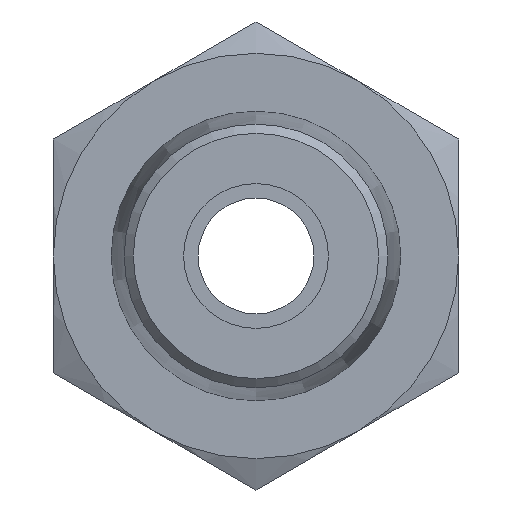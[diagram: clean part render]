
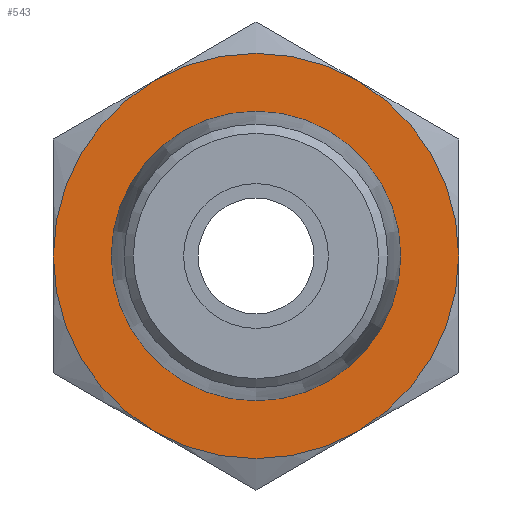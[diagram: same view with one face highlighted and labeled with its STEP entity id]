
A CAD part, front view. The second image highlights one B-rep face of the part: STEP entity #543.
In plain terms, the highlighted planar face has unit normal (0, -1, 0).
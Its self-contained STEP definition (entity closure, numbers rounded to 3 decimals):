
#66=FACE_BOUND('',#162,.T.);
#78=PLANE('',#638);
#116=FACE_OUTER_BOUND('',#161,.T.);
#161=EDGE_LOOP('',(#475,#476,#477,#478,#479,#480));
#162=EDGE_LOOP('',(#481));
#213=CIRCLE('',#590,5.);
#230=CIRCLE('',#624,7.);
#231=CIRCLE('',#626,7.);
#232=CIRCLE('',#628,7.);
#233=CIRCLE('',#630,7.);
#234=CIRCLE('',#632,7.);
#235=CIRCLE('',#634,7.);
#247=VERTEX_POINT('',#841);
#271=VERTEX_POINT('',#942);
#272=VERTEX_POINT('',#946);
#274=VERTEX_POINT('',#953);
#276=VERTEX_POINT('',#963);
#278=VERTEX_POINT('',#976);
#280=VERTEX_POINT('',#986);
#297=EDGE_CURVE('',#247,#247,#213,.T.);
#335=EDGE_CURVE('',#271,#272,#230,.T.);
#338=EDGE_CURVE('',#274,#271,#231,.T.);
#341=EDGE_CURVE('',#276,#274,#232,.T.);
#343=EDGE_CURVE('',#278,#276,#233,.T.);
#346=EDGE_CURVE('',#280,#278,#234,.T.);
#349=EDGE_CURVE('',#272,#280,#235,.T.);
#475=ORIENTED_EDGE('',*,*,#349,.T.);
#476=ORIENTED_EDGE('',*,*,#346,.T.);
#477=ORIENTED_EDGE('',*,*,#343,.T.);
#478=ORIENTED_EDGE('',*,*,#341,.T.);
#479=ORIENTED_EDGE('',*,*,#338,.T.);
#480=ORIENTED_EDGE('',*,*,#335,.T.);
#481=ORIENTED_EDGE('',*,*,#297,.T.);
#543=ADVANCED_FACE('',(#116,#66),#78,.F.);
#590=AXIS2_PLACEMENT_3D('',#842,#687,#688);
#624=AXIS2_PLACEMENT_3D('',#950,#762,#763);
#626=AXIS2_PLACEMENT_3D('',#960,#766,#767);
#628=AXIS2_PLACEMENT_3D('',#970,#770,#771);
#630=AXIS2_PLACEMENT_3D('',#977,#774,#775);
#632=AXIS2_PLACEMENT_3D('',#987,#778,#779);
#634=AXIS2_PLACEMENT_3D('',#996,#782,#783);
#638=AXIS2_PLACEMENT_3D('',#1007,#794,#795);
#687=DIRECTION('center_axis',(0.,1.,0.));
#688=DIRECTION('ref_axis',(1.,0.,0.));
#762=DIRECTION('center_axis',(0.,-1.,0.));
#763=DIRECTION('ref_axis',(1.,0.,0.));
#766=DIRECTION('center_axis',(0.,-1.,0.));
#767=DIRECTION('ref_axis',(1.,0.,0.));
#770=DIRECTION('center_axis',(0.,-1.,0.));
#771=DIRECTION('ref_axis',(1.,0.,0.));
#774=DIRECTION('center_axis',(0.,-1.,0.));
#775=DIRECTION('ref_axis',(1.,0.,0.));
#778=DIRECTION('center_axis',(0.,-1.,0.));
#779=DIRECTION('ref_axis',(1.,0.,0.));
#782=DIRECTION('center_axis',(0.,-1.,0.));
#783=DIRECTION('ref_axis',(1.,0.,0.));
#794=DIRECTION('center_axis',(0.,1.,0.));
#795=DIRECTION('ref_axis',(0.,0.,1.));
#841=CARTESIAN_POINT('',(0.,7.5,5.));
#842=CARTESIAN_POINT('Origin',(0.,7.5,0.));
#942=CARTESIAN_POINT('',(-7.,7.5,0.));
#946=CARTESIAN_POINT('',(-3.5,7.5,-6.062));
#950=CARTESIAN_POINT('Origin',(0.,7.5,0.));
#953=CARTESIAN_POINT('',(-3.5,7.5,6.062));
#960=CARTESIAN_POINT('Origin',(0.,7.5,0.));
#963=CARTESIAN_POINT('',(3.5,7.5,6.062));
#970=CARTESIAN_POINT('Origin',(0.,7.5,0.));
#976=CARTESIAN_POINT('',(7.,7.5,0.));
#977=CARTESIAN_POINT('Origin',(0.,7.5,0.));
#986=CARTESIAN_POINT('',(3.5,7.5,-6.062));
#987=CARTESIAN_POINT('Origin',(0.,7.5,0.));
#996=CARTESIAN_POINT('Origin',(0.,7.5,0.));
#1007=CARTESIAN_POINT('Origin',(0.,7.5,0.));
